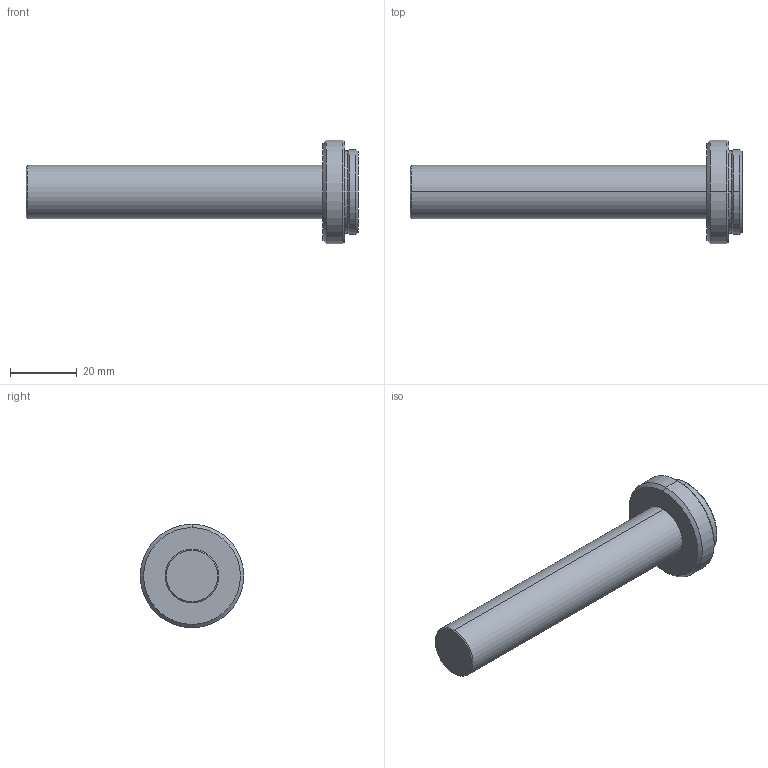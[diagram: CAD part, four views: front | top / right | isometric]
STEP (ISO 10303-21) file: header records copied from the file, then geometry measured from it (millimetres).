
FILE_DESCRIPTION (( 'STEP AP203' ), '1' );
FILE_NAME ('VS-TC1-65-16.STEP', '2015-08-28T05:45:35', ( 'miura_vst' ), ( '' ), 'SwSTEP 2.0', 'SolidWorks 2015', '' );
FILE_SCHEMA (( 'CONFIG_CONTROL_DESIGN' ));
Length unit declared in the file: millimetre
Products named in the file (1): VS-TC1-65-16
Bounding box: 99.4 x 31 x 31 mm (x, y, z)
Volume: 24693.4 mm3; surface area: 6847.1 mm2
Topology: 1 solids, 1 shells, 22 faces, 42 edges, 24 vertices
Faces by surface type: cone 10, cylinder 8, plane 4
Entity records: 631 total; most frequent: DIRECTION 112, CARTESIAN_POINT 89, ORIENTED_EDGE 84, AXIS2_PLACEMENT_3D 47, EDGE_CURVE 42, EDGE_LOOP 24, VERTEX_POINT 24, CIRCLE 24
